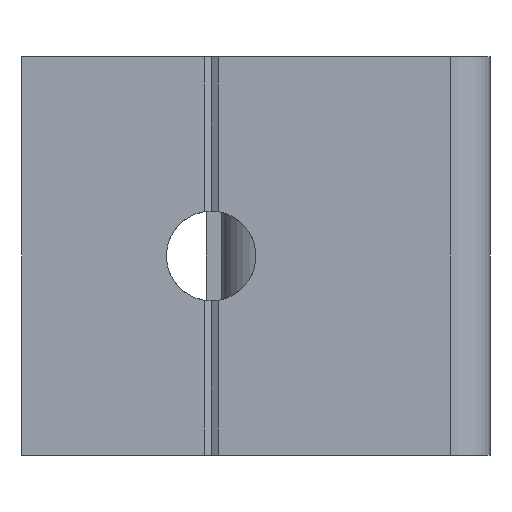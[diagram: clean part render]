
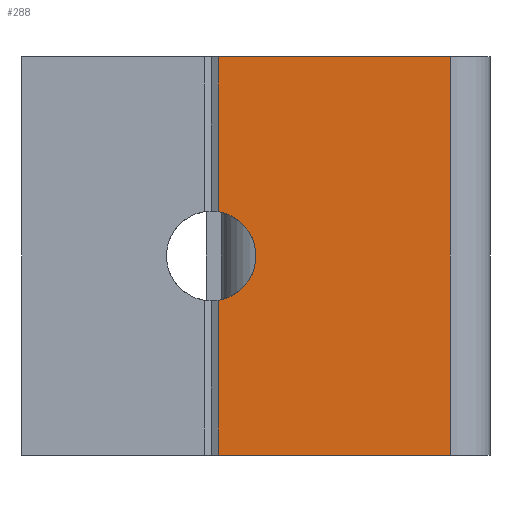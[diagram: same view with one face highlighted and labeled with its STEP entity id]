
A CAD part, front view. The second image highlights one B-rep face of the part: STEP entity #288.
In plain terms, the highlighted planar face has unit normal (0, -1, 0).
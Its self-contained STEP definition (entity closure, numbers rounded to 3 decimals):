
#27 = CARTESIAN_POINT ( 'NONE',  ( 60.204, -35.425, 15.554 ) ) ;
#43 = VERTEX_POINT ( 'NONE', #203 ) ;
#57 = VERTEX_POINT ( 'NONE', #653 ) ;
#84 = EDGE_CURVE ( 'NONE', #806, #57, #1245, .T. ) ;
#110 = PLANE ( 'NONE',  #414 ) ;
#113 = EDGE_CURVE ( 'NONE', #505, #321, #1275, .T. ) ;
#120 = VECTOR ( 'NONE', #1295, 1000. ) ;
#143 = CARTESIAN_POINT ( 'NONE',  ( 59.511, -35.425, 20. ) ) ;
#144 = VECTOR ( 'NONE', #355, 1000. ) ;
#152 = CARTESIAN_POINT ( 'NONE',  ( 60.204, -35.425, 40. ) ) ;
#159 = CARTESIAN_POINT ( 'NONE',  ( 60.204, -35.425, 40. ) ) ;
#189 = VERTEX_POINT ( 'NONE', #27 ) ;
#199 = ORIENTED_EDGE ( 'NONE', *, *, #1320, .T. ) ;
#203 = CARTESIAN_POINT ( 'NONE',  ( 83.511, -35.425, 40. ) ) ;
#209 = EDGE_LOOP ( 'NONE', ( #1296, #199, #942, #938, #978, #1262 ) ) ;
#244 = AXIS2_PLACEMENT_3D ( 'NONE', #143, #1132, #901 ) ;
#265 = VECTOR ( 'NONE', #732, 1000. ) ;
#288 = ADVANCED_FACE ( 'NONE', ( #1098 ), #110, .F. ) ;
#321 = VERTEX_POINT ( 'NONE', #1241 ) ;
#336 = CARTESIAN_POINT ( 'NONE',  ( 60.204, -35.425, 40. ) ) ;
#355 = DIRECTION ( 'NONE',  ( 1., 0., 0. ) ) ;
#414 = AXIS2_PLACEMENT_3D ( 'NONE', #336, #455, #567 ) ;
#455 = DIRECTION ( 'NONE',  ( 0., 1., 0. ) ) ;
#483 = VECTOR ( 'NONE', #1390, 1000. ) ;
#505 = VERTEX_POINT ( 'NONE', #152 ) ;
#512 = DIRECTION ( 'NONE',  ( 0., 0., -1. ) ) ;
#552 = EDGE_CURVE ( 'NONE', #43, #57, #608, .T. ) ;
#567 = DIRECTION ( 'NONE',  ( -1., 0., 0. ) ) ;
#606 = VECTOR ( 'NONE', #512, 1000. ) ;
#608 = LINE ( 'NONE', #739, #606 ) ;
#628 = LINE ( 'NONE', #159, #144 ) ;
#653 = CARTESIAN_POINT ( 'NONE',  ( 83.511, -35.425, 0. ) ) ;
#702 = LINE ( 'NONE', #833, #265 ) ;
#732 = DIRECTION ( 'NONE',  ( 0., 0., -1. ) ) ;
#739 = CARTESIAN_POINT ( 'NONE',  ( 83.511, -35.425, 40. ) ) ;
#806 = VERTEX_POINT ( 'NONE', #1293 ) ;
#833 = CARTESIAN_POINT ( 'NONE',  ( 60.204, -35.425, 40. ) ) ;
#846 = EDGE_CURVE ( 'NONE', #505, #43, #628, .T. ) ;
#868 = CARTESIAN_POINT ( 'NONE',  ( 60.204, -35.425, 40. ) ) ;
#901 = DIRECTION ( 'NONE',  ( -1., 0., 0. ) ) ;
#938 = ORIENTED_EDGE ( 'NONE', *, *, #84, .T. ) ;
#942 = ORIENTED_EDGE ( 'NONE', *, *, #991, .T. ) ;
#978 = ORIENTED_EDGE ( 'NONE', *, *, #552, .F. ) ;
#991 = EDGE_CURVE ( 'NONE', #189, #806, #702, .T. ) ;
#1098 = FACE_OUTER_BOUND ( 'NONE', #209, .T. ) ;
#1132 = DIRECTION ( 'NONE',  ( 0., 1., 0. ) ) ;
#1241 = CARTESIAN_POINT ( 'NONE',  ( 60.204, -35.425, 24.446 ) ) ;
#1245 = LINE ( 'NONE', #1290, #483 ) ;
#1262 = ORIENTED_EDGE ( 'NONE', *, *, #846, .F. ) ;
#1267 = CIRCLE ( 'NONE', #244, 4.5 ) ;
#1275 = LINE ( 'NONE', #868, #120 ) ;
#1290 = CARTESIAN_POINT ( 'NONE',  ( 60.204, -35.425, 0. ) ) ;
#1293 = CARTESIAN_POINT ( 'NONE',  ( 60.204, -35.425, 0. ) ) ;
#1295 = DIRECTION ( 'NONE',  ( 0., 0., -1. ) ) ;
#1296 = ORIENTED_EDGE ( 'NONE', *, *, #113, .T. ) ;
#1320 = EDGE_CURVE ( 'NONE', #321, #189, #1267, .T. ) ;
#1390 = DIRECTION ( 'NONE',  ( 1., 0., 0. ) ) ;
